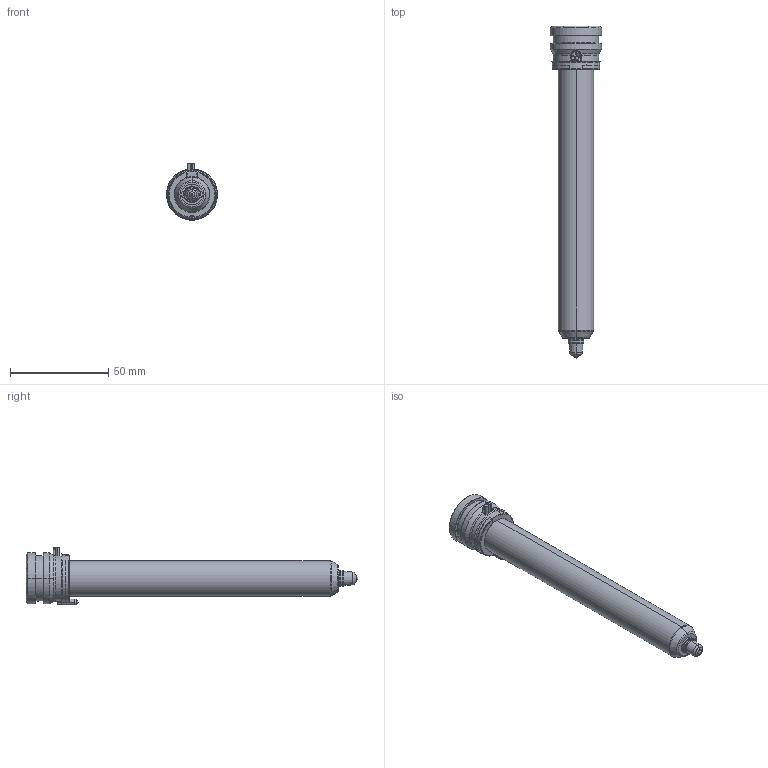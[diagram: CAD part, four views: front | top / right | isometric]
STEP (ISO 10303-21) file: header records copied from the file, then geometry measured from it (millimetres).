
FILE_DESCRIPTION((''),'2;1');
FILE_NAME('TH18151-A-1B50-PK-JG','2023-12-14T',('umhib'),('Thermoplay S.p.A.'),'PRO/ENGINEER BY PARAMETRIC TECHNOLOGY CORPORATION, 2017170','PRO/ENGINEER BY PARAMETRIC TECHNOLOGY CORPORATION, 2017170','');
FILE_SCHEMA(('CONFIG_CONTROL_DESIGN'));
Length unit declared in the file: millimetre
Products named in the file (1): TH18151-A-1B50-PK-JG
Bounding box: 26 x 169 x 29.5 mm (x, y, z)
Volume: 33183.2 mm3; surface area: 24235.3 mm2
Topology: 1 solids, 2 shells, 394 faces, 1026 edges, 637 vertices
Faces by surface type: cylinder 151, plane 85, cone 66, torus 54, bspline 24, sphere 12, extrusion 2
Entity records: 17996 total; most frequent: CARTESIAN_POINT 6173, ORIENTED_EDGE 2028, DIRECTION 2015, EDGE_CURVE 1016, AXIS2_PLACEMENT_3D 808, VERTEX_POINT 637, CIRCLE 439, EDGE_LOOP 414
